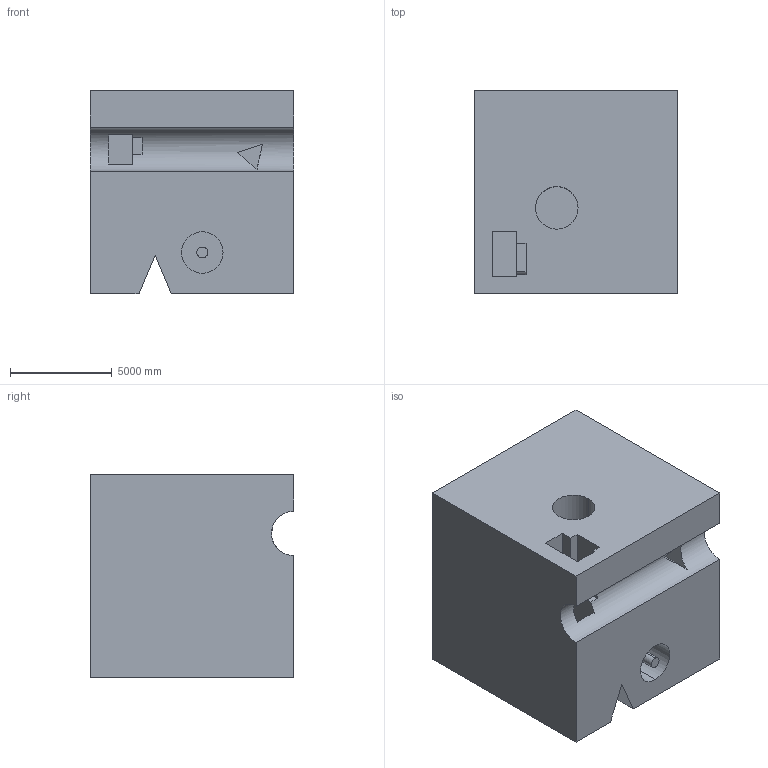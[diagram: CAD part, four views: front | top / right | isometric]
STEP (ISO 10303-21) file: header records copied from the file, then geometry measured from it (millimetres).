
FILE_DESCRIPTION (( 'STEP AP203' ), '1' );
FILE_NAME ('1733.STEP', '2022-08-19T12:12:04', ( 'user' ), ( '' ), 'SwSTEP 2.0', 'SolidWorks 2021', '' );
FILE_SCHEMA (( 'CONFIG_CONTROL_DESIGN' ));
Length unit declared in the file: centimetre
Products named in the file (1): 1733
Bounding box: 10000 x 10000 x 10000 mm (x, y, z)
Volume: 890296677404.1 mm3; surface area: 803519309.5 mm2
Topology: 1 solids, 1 shells, 40 faces, 102 edges, 68 vertices
Faces by surface type: plane 31, cylinder 9
Entity records: 1289 total; most frequent: CARTESIAN_POINT 220, ORIENTED_EDGE 204, DIRECTION 203, EDGE_CURVE 102, LINE 77, VECTOR 77, VERTEX_POINT 68, AXIS2_PLACEMENT_3D 63
